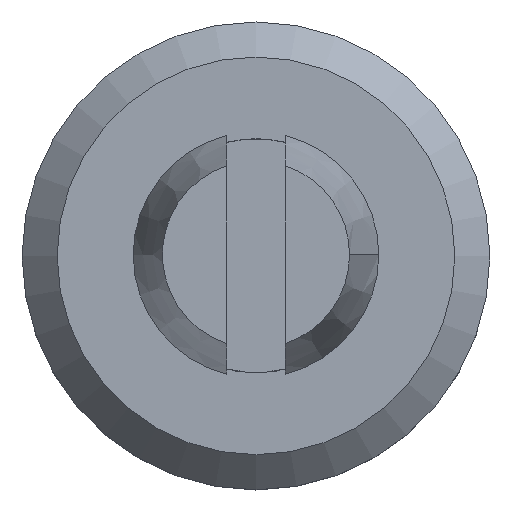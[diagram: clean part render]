
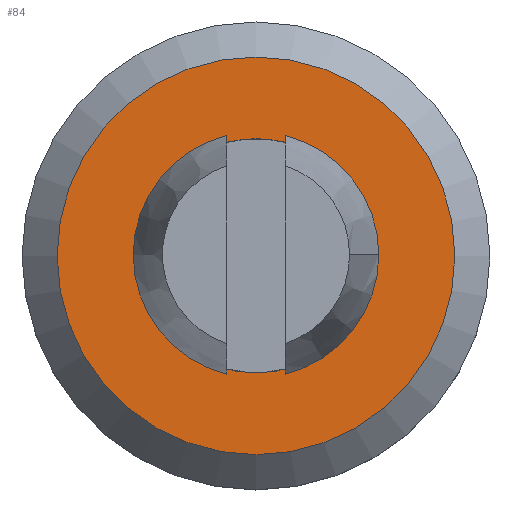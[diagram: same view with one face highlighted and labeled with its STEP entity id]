
A CAD part, top view. The second image highlights one B-rep face of the part: STEP entity #84.
In plain terms, the highlighted planar face has unit normal (0, 0, 1).
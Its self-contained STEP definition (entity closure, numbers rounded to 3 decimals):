
#55 = VERTEX_POINT('',#56);
#56 = CARTESIAN_POINT('',(131.4,128.,2.));
#64 = EDGE_CURVE('',#55,#55,#65,.T.);
#65 = CIRCLE('',#66,3.4);
#66 = AXIS2_PLACEMENT_3D('',#67,#68,#69);
#67 = CARTESIAN_POINT('',(128.,128.,2.));
#68 = DIRECTION('',(0.,0.,1.));
#69 = DIRECTION('',(1.,0.,0.));
#84 = ADVANCED_FACE('',(#85,#88),#99,.T.);
#85 = FACE_BOUND('',#86,.T.);
#86 = EDGE_LOOP('',(#87));
#87 = ORIENTED_EDGE('',*,*,#64,.T.);
#88 = FACE_BOUND('',#89,.T.);
#89 = EDGE_LOOP('',(#90));
#90 = ORIENTED_EDGE('',*,*,#91,.F.);
#91 = EDGE_CURVE('',#92,#92,#94,.T.);
#92 = VERTEX_POINT('',#93);
#93 = CARTESIAN_POINT('',(130.,128.,2.));
#94 = CIRCLE('',#95,2.);
#95 = AXIS2_PLACEMENT_3D('',#96,#97,#98);
#96 = CARTESIAN_POINT('',(128.,128.,2.));
#97 = DIRECTION('',(0.,0.,1.));
#98 = DIRECTION('',(1.,0.,0.));
#99 = PLANE('',#100);
#100 = AXIS2_PLACEMENT_3D('',#101,#102,#103);
#101 = CARTESIAN_POINT('',(128.,128.,2.));
#102 = DIRECTION('',(0.,0.,1.));
#103 = DIRECTION('',(1.,0.,0.));
